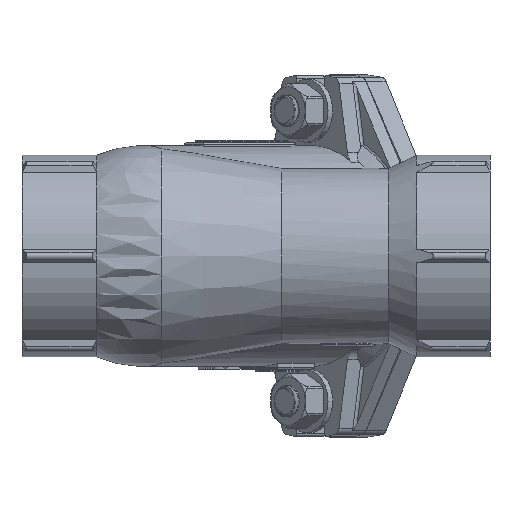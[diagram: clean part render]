
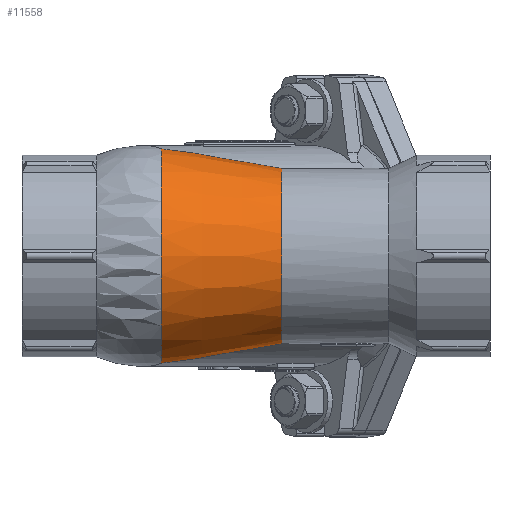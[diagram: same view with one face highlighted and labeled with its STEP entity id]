
A CAD part, front view. The second image highlights one B-rep face of the part: STEP entity #11558.
In plain terms, the highlighted conical face has half-angle 10 degrees and reference radius 41.608 mm.
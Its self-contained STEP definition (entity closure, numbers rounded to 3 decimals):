
#450=CONICAL_SURFACE('',#12425,41.608,0.175);
#2562=ELLIPSE('',#12426,115.58,42.25);
#2563=ELLIPSE('',#12427,1228.046,270.691);
#2564=ELLIPSE('',#12429,8053.842,693.229);
#2565=ELLIPSE('',#12430,115.58,42.25);
#3191=FACE_OUTER_BOUND('',#3896,.T.);
#3896=EDGE_LOOP('',(#8386,#8387,#8388,#8389,#8390,#8391));
#4639=CIRCLE('',#12415,33.5);
#4645=CIRCLE('',#12428,41.608);
#5093=VERTEX_POINT('',#17875);
#5094=VERTEX_POINT('',#17876);
#5107=VERTEX_POINT('',#17930);
#5108=VERTEX_POINT('',#17932);
#5109=VERTEX_POINT('',#17934);
#5110=VERTEX_POINT('',#17936);
#6333=EDGE_CURVE('',#5093,#5094,#4639,.T.);
#6347=EDGE_CURVE('',#5107,#5094,#2562,.T.);
#6348=EDGE_CURVE('',#5108,#5107,#2563,.T.);
#6349=EDGE_CURVE('',#5109,#5108,#4645,.T.);
#6350=EDGE_CURVE('',#5110,#5109,#2564,.T.);
#6351=EDGE_CURVE('',#5093,#5110,#2565,.T.);
#8386=ORIENTED_EDGE('',*,*,#6333,.T.);
#8387=ORIENTED_EDGE('',*,*,#6347,.F.);
#8388=ORIENTED_EDGE('',*,*,#6348,.F.);
#8389=ORIENTED_EDGE('',*,*,#6349,.F.);
#8390=ORIENTED_EDGE('',*,*,#6350,.F.);
#8391=ORIENTED_EDGE('',*,*,#6351,.F.);
#11558=ADVANCED_FACE('',(#3191),#450,.T.);
#12415=AXIS2_PLACEMENT_3D('',#17877,#13963,#13964);
#12425=AXIS2_PLACEMENT_3D('',#17929,#13985,#13986);
#12426=AXIS2_PLACEMENT_3D('',#17931,#13987,#13988);
#12427=AXIS2_PLACEMENT_3D('',#17933,#13989,#13990);
#12428=AXIS2_PLACEMENT_3D('',#17935,#13991,#13992);
#12429=AXIS2_PLACEMENT_3D('',#17937,#13993,#13994);
#12430=AXIS2_PLACEMENT_3D('',#17938,#13995,#13996);
#13963=DIRECTION('center_axis',(-1.,0.,0.));
#13964=DIRECTION('ref_axis',(0.,0.,1.));
#13985=DIRECTION('center_axis',(-1.,0.,0.));
#13986=DIRECTION('ref_axis',(0.,-1.,0.));
#13987=DIRECTION('center_axis',(-0.4,0.917,0.));
#13988=DIRECTION('ref_axis',(0.917,0.4,0.));
#13989=DIRECTION('center_axis',(0.398,0.632,-0.665));
#13990=DIRECTION('ref_axis',(0.628,0.341,0.7));
#13991=DIRECTION('center_axis',(-1.,0.,0.));
#13992=DIRECTION('ref_axis',(0.,0.,1.));
#13993=DIRECTION('center_axis',(0.398,0.632,0.665));
#13994=DIRECTION('ref_axis',(-0.627,-0.342,0.7));
#13995=DIRECTION('center_axis',(-0.4,0.917,0.));
#13996=DIRECTION('ref_axis',(0.917,0.4,0.));
#17875=CARTESIAN_POINT('',(99.32,12.714,-30.994));
#17876=CARTESIAN_POINT('',(99.32,12.714,30.994));
#17877=CARTESIAN_POINT('Origin',(99.32,0.,0.));
#17929=CARTESIAN_POINT('Origin',(53.337,0.,0.));
#17930=CARTESIAN_POINT('',(53.51,-7.261,40.939));
#17931=CARTESIAN_POINT('Origin',(27.319,-18.681,0.));
#17932=CARTESIAN_POINT('',(53.337,-7.087,41.));
#17933=CARTESIAN_POINT('Origin',(-716.334,-427.099,-818.79));
#17934=CARTESIAN_POINT('',(53.337,-7.087,-41.));
#17935=CARTESIAN_POINT('Origin',(53.337,0.,0.));
#17936=CARTESIAN_POINT('',(53.51,-7.261,-40.939));
#17937=CARTESIAN_POINT('Origin',(-4994.914,-2761.181,5597.631));
#17938=CARTESIAN_POINT('Origin',(27.319,-18.681,0.));
